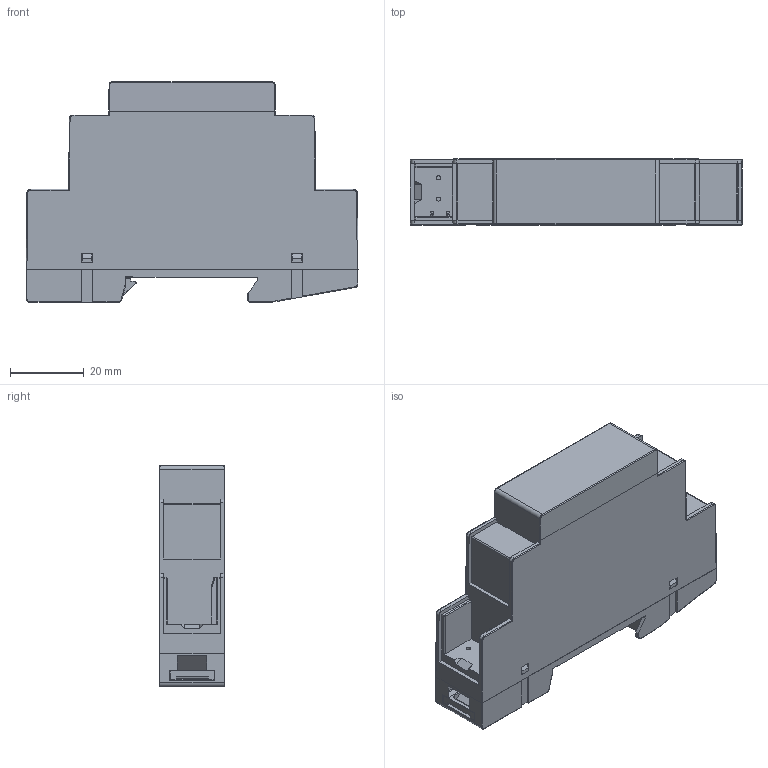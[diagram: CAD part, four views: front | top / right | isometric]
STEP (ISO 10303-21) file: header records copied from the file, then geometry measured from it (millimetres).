
FILE_DESCRIPTION(/* description */ ('Unknown'),/* implementation_level */ '2;1');
FILE_NAME(/* name */ 'modulo_USB_28_02_2019 pelle x catalogo',/* time_stamp */ '2019-11-27T13:22:00+01:00',/* author */ ('Unknown'),/* organization */ ('Unknown'),/* preprocessor_version */ 'ST-DEVELOPER v16.7',/* originating_system */ 'DEX',/* authorisation */ $);
FILE_SCHEMA (('AUTOMOTIVE_DESIGN {1 0 10303 214 3 1 1}'));
Length unit declared in the file: millimetre
Products named in the file (1): modulo_USB_28_02_2019 pelle x catalogo
Bounding box: 89.85 x 17.8 x 59.8 mm (x, y, z)
Surface area: 17516.7 mm2 (no closed solid volume)
Topology: 0 solids, 3 shells, 335 faces, 1049 edges, 702 vertices
Faces by surface type: plane 210, cylinder 96, torus 19, sphere 6, bspline 4
Full cylindrical faces by diameter (mm): 1.1 x2
Entity records: 11659 total; most frequent: CARTESIAN_POINT 2353, ORIENTED_EDGE 1893, DIRECTION 1873, EDGE_CURVE 1041, LINE 815, VECTOR 815, VERTEX_POINT 702, AXIS2_PLACEMENT_3D 529
